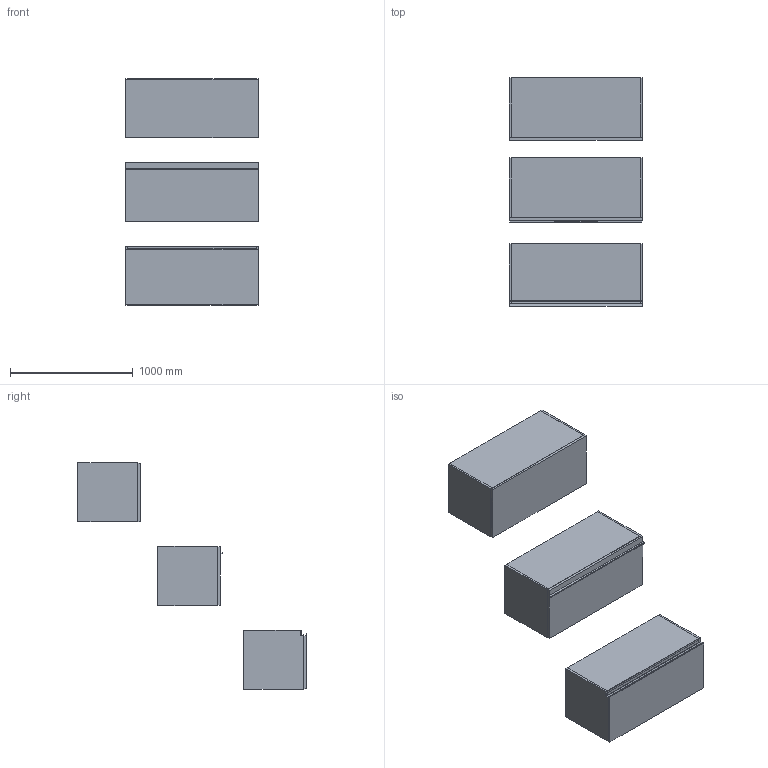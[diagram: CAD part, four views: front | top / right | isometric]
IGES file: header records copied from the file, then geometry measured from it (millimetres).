
Start section: Data from Parasolid IGES Translator 19.0.9, Copyright(c) 2006 Siemens PL M Software. All Rights Reserved.
Global section: file name: noorth-SI-H 48 D 51 W 108_8568.igs; native system: By Siemens PLM Incorporated; preprocessor: XPlus GENERIC/IGES 19.0.9; author: Noname; organization: Noname; date: 20200601.112942; units: metre
Bounding box: 1082.13 x 1857.1 x 1840.01 mm (x, y, z)
Volume: 104101110.6 mm3; surface area: 15591890.3 mm2
Topology: 20 solids, 20 shells, 178 faces, 382 edges, 234 vertices
Faces by surface type: plane 134, extrusion 16, bspline 16, cylinder 12
